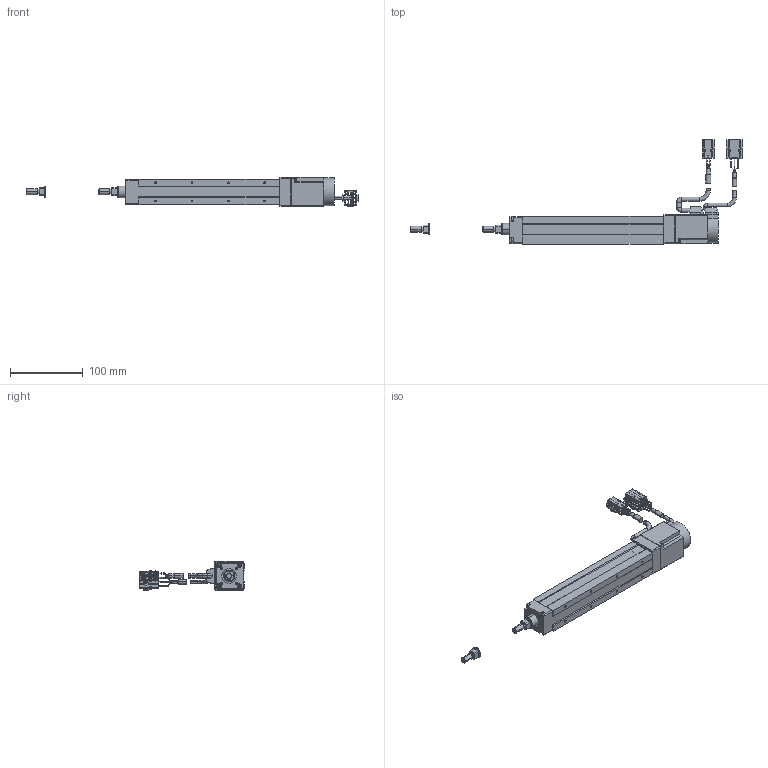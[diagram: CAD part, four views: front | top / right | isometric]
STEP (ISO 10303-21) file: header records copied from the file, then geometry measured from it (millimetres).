
FILE_DESCRIPTION((''),'2;1');
FILE_NAME('BET3D-ST-C_N-10_IGS_PRT','2017-06-18T',(' '),(''),'PRO/ENGINEER BY PARAMETRIC TECHNOLOGY CORPORATION, 2015030','PRO/ENGINEER BY PARAMETRIC TECHNOLOGY CORPORATION, 2015030','');
FILE_SCHEMA(('CONFIG_CONTROL_DESIGN'));
Length unit declared in the file: millimetre
Products named in the file (1): BET3D-ST-C_N-10_IGS_PRT
Bounding box: 456.9 x 144.2 x 40.28 mm (x, y, z)
Volume: 290622.8 mm3; surface area: 96343.9 mm2
Topology: 6 solids, 32 shells, 872 faces, 2202 edges, 1396 vertices
Faces by surface type: plane 500, cylinder 250, torus 64, cone 54, sphere 4
Entity records: 26036 total; most frequent: CARTESIAN_POINT 4661, DIRECTION 4524, ORIENTED_EDGE 4300, EDGE_CURVE 2166, AXIS2_PLACEMENT_3D 1518, VECTOR 1488, LINE 1488, VERTEX_POINT 1396
